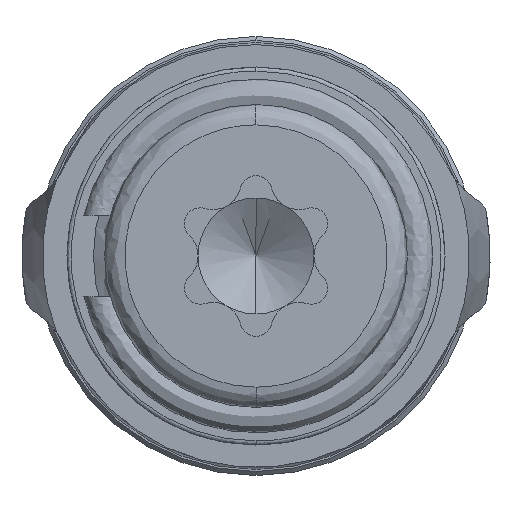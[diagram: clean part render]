
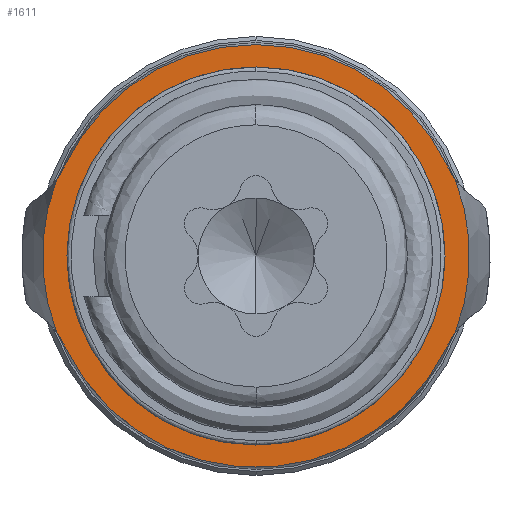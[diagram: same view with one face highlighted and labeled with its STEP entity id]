
A CAD part, front view. The second image highlights one B-rep face of the part: STEP entity #1611.
In plain terms, the highlighted planar face has unit normal (0, -1, 0).
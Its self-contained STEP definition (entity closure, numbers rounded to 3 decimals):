
#143 = ORIENTED_EDGE ( 'NONE', *, *, #3307, .F. ) ;
#214 = CARTESIAN_POINT ( 'NONE',  ( 4.705, 10.05, -2.215 ) ) ;
#247 = ORIENTED_EDGE ( 'NONE', *, *, #534, .F. ) ;
#262 = CARTESIAN_POINT ( 'NONE',  ( 0., 10.05, 0. ) ) ;
#264 = DIRECTION ( 'NONE',  ( 0., -1., 0. ) ) ;
#271 = DIRECTION ( 'NONE',  ( 0., 0., 1. ) ) ;
#302 = CARTESIAN_POINT ( 'NONE',  ( 0., 10.05, 0. ) ) ;
#308 = DIRECTION ( 'NONE',  ( 0., 1., 0. ) ) ;
#317 = DIRECTION ( 'NONE',  ( 0., 0., 1. ) ) ;
#350 = CARTESIAN_POINT ( 'NONE',  ( 0., 10.05, 0. ) ) ;
#356 = DIRECTION ( 'NONE',  ( 0., -1., 0. ) ) ;
#380 = DIRECTION ( 'NONE',  ( 0., 0., -1. ) ) ;
#430 = ORIENTED_EDGE ( 'NONE', *, *, #6045, .T. ) ;
#443 = CARTESIAN_POINT ( 'NONE',  ( -4.705, 10.05, -2.215 ) ) ;
#523 = CARTESIAN_POINT ( 'NONE',  ( 0., 10.05, 4.65 ) ) ;
#534 = EDGE_CURVE ( 'NONE', #2117, #4188, #3015, .T. ) ;
#614 = CIRCLE ( 'NONE', #5711, 5.2 ) ;
#696 = CARTESIAN_POINT ( 'NONE',  ( 0., 10.05, 0. ) ) ;
#906 = CARTESIAN_POINT ( 'NONE',  ( 6.514, 10.05, 3.067 ) ) ;
#919 = DIRECTION ( 'NONE',  ( 0., 1., 0. ) ) ;
#929 = AXIS2_PLACEMENT_3D ( 'NONE', #2936, #2767, #2726 ) ;
#936 = DIRECTION ( 'NONE',  ( 0., 0., 1. ) ) ;
#1196 = CIRCLE ( 'NONE', #3379, 4.65 ) ;
#1249 = AXIS2_PLACEMENT_3D ( 'NONE', #1777, #1759, #1723 ) ;
#1376 = VERTEX_POINT ( 'NONE', #3446 ) ;
#1548 = AXIS2_PLACEMENT_3D ( 'NONE', #696, #2259, #2910 ) ;
#1611 = ADVANCED_FACE ( 'NONE', ( #5346, #2971 ), #3779, .T. ) ;
#1657 = CIRCLE ( 'NONE', #2963, 5.252 ) ;
#1723 = DIRECTION ( 'NONE',  ( 0., 0., -1. ) ) ;
#1759 = DIRECTION ( 'NONE',  ( 0., -1., 0. ) ) ;
#1777 = CARTESIAN_POINT ( 'NONE',  ( 0., 10.05, 0. ) ) ;
#1790 = DIRECTION ( 'NONE',  ( 0., 0., 1. ) ) ;
#1802 = DIRECTION ( 'NONE',  ( 0., 1., 0. ) ) ;
#1811 = CARTESIAN_POINT ( 'NONE',  ( 0., 10.05, 0. ) ) ;
#1906 = CIRCLE ( 'NONE', #1249, 4.65 ) ;
#1950 = CARTESIAN_POINT ( 'NONE',  ( -4.705, 10.05, 2.215 ) ) ;
#2117 = VERTEX_POINT ( 'NONE', #5898 ) ;
#2212 = ORIENTED_EDGE ( 'NONE', *, *, #6093, .T. ) ;
#2259 = DIRECTION ( 'NONE',  ( 0., 1., 0. ) ) ;
#2275 = ORIENTED_EDGE ( 'NONE', *, *, #6057, .F. ) ;
#2314 = VERTEX_POINT ( 'NONE', #214 ) ;
#2450 = CARTESIAN_POINT ( 'NONE',  ( 0., 10.05, 5.2 ) ) ;
#2483 = CARTESIAN_POINT ( 'NONE',  ( 0., 10.05, 0. ) ) ;
#2487 = DIRECTION ( 'NONE',  ( 0., 1., 0. ) ) ;
#2494 = AXIS2_PLACEMENT_3D ( 'NONE', #5019, #5058, #5045 ) ;
#2500 = DIRECTION ( 'NONE',  ( 0., 0., 1. ) ) ;
#2503 = EDGE_CURVE ( 'NONE', #2314, #4335, #4168, .T. ) ;
#2531 = EDGE_LOOP ( 'NONE', ( #143, #2275 ) ) ;
#2654 = CIRCLE ( 'NONE', #3503, 5.2 ) ;
#2726 = DIRECTION ( 'NONE',  ( 0., 0., 1. ) ) ;
#2753 = ORIENTED_EDGE ( 'NONE', *, *, #2883, .F. ) ;
#2767 = DIRECTION ( 'NONE',  ( 0., 1., 0. ) ) ;
#2817 = CIRCLE ( 'NONE', #1548, 5.2 ) ;
#2844 = CIRCLE ( 'NONE', #5214, 2. ) ;
#2883 = EDGE_CURVE ( 'NONE', #3558, #4809, #2817, .T. ) ;
#2910 = DIRECTION ( 'NONE',  ( 0., 0., 1. ) ) ;
#2936 = CARTESIAN_POINT ( 'NONE',  ( -6.514, 10.05, -3.067 ) ) ;
#2963 = AXIS2_PLACEMENT_3D ( 'NONE', #262, #264, #271 ) ;
#2971 = FACE_BOUND ( 'NONE', #2531, .T. ) ;
#3015 = CIRCLE ( 'NONE', #4382, 5.252 ) ;
#3040 = EDGE_CURVE ( 'NONE', #2117, #5439, #5396, .T. ) ;
#3052 = EDGE_LOOP ( 'NONE', ( #5541, #5096, #247, #5070, #4393, #4144, #430, #2212, #2753 ) ) ;
#3069 = VERTEX_POINT ( 'NONE', #1950 ) ;
#3226 = DIRECTION ( 'NONE',  ( 0., 0., 1. ) ) ;
#3253 = DIRECTION ( 'NONE',  ( 0., 1., 0. ) ) ;
#3257 = DIRECTION ( 'NONE',  ( 0., -1., 0. ) ) ;
#3271 = CARTESIAN_POINT ( 'NONE',  ( -6.514, 10.05, 3.067 ) ) ;
#3284 = EDGE_CURVE ( 'NONE', #3069, #4188, #3745, .T. ) ;
#3307 = EDGE_CURVE ( 'NONE', #3776, #3467, #1906, .T. ) ;
#3333 = AXIS2_PLACEMENT_3D ( 'NONE', #3271, #3253, #3226 ) ;
#3379 = AXIS2_PLACEMENT_3D ( 'NONE', #350, #356, #380 ) ;
#3411 = CARTESIAN_POINT ( 'NONE',  ( 4.903, 10.05, -1.882 ) ) ;
#3446 = CARTESIAN_POINT ( 'NONE',  ( 4.903, 10.05, 1.882 ) ) ;
#3467 = VERTEX_POINT ( 'NONE', #523 ) ;
#3503 = AXIS2_PLACEMENT_3D ( 'NONE', #302, #308, #317 ) ;
#3558 = VERTEX_POINT ( 'NONE', #2450 ) ;
#3636 = CARTESIAN_POINT ( 'NONE',  ( -4.903, 10.05, 1.882 ) ) ;
#3745 = CIRCLE ( 'NONE', #3333, 2. ) ;
#3776 = VERTEX_POINT ( 'NONE', #5292 ) ;
#3779 = PLANE ( 'NONE',  #4418 ) ;
#4083 = CARTESIAN_POINT ( 'NONE',  ( 4.705, 10.05, 2.215 ) ) ;
#4144 = ORIENTED_EDGE ( 'NONE', *, *, #2503, .T. ) ;
#4168 = CIRCLE ( 'NONE', #2494, 2. ) ;
#4188 = VERTEX_POINT ( 'NONE', #3636 ) ;
#4335 = VERTEX_POINT ( 'NONE', #3411 ) ;
#4382 = AXIS2_PLACEMENT_3D ( 'NONE', #1811, #1802, #1790 ) ;
#4393 = ORIENTED_EDGE ( 'NONE', *, *, #6047, .F. ) ;
#4418 = AXIS2_PLACEMENT_3D ( 'NONE', #5375, #3257, #5856 ) ;
#4593 = EDGE_CURVE ( 'NONE', #3069, #3558, #614, .T. ) ;
#4809 = VERTEX_POINT ( 'NONE', #4083 ) ;
#5019 = CARTESIAN_POINT ( 'NONE',  ( 6.514, 10.05, -3.067 ) ) ;
#5045 = DIRECTION ( 'NONE',  ( 0., 0., 1. ) ) ;
#5058 = DIRECTION ( 'NONE',  ( 0., 1., 0. ) ) ;
#5070 = ORIENTED_EDGE ( 'NONE', *, *, #3040, .T. ) ;
#5096 = ORIENTED_EDGE ( 'NONE', *, *, #3284, .T. ) ;
#5214 = AXIS2_PLACEMENT_3D ( 'NONE', #906, #919, #936 ) ;
#5292 = CARTESIAN_POINT ( 'NONE',  ( 0., 10.05, -4.65 ) ) ;
#5346 = FACE_OUTER_BOUND ( 'NONE', #3052, .T. ) ;
#5375 = CARTESIAN_POINT ( 'NONE',  ( 0., 10.05, 0. ) ) ;
#5396 = CIRCLE ( 'NONE', #929, 2. ) ;
#5439 = VERTEX_POINT ( 'NONE', #443 ) ;
#5541 = ORIENTED_EDGE ( 'NONE', *, *, #4593, .F. ) ;
#5711 = AXIS2_PLACEMENT_3D ( 'NONE', #2483, #2487, #2500 ) ;
#5856 = DIRECTION ( 'NONE',  ( 0., 0., -1. ) ) ;
#5898 = CARTESIAN_POINT ( 'NONE',  ( -4.903, 10.05, -1.882 ) ) ;
#6045 = EDGE_CURVE ( 'NONE', #4335, #1376, #1657, .T. ) ;
#6047 = EDGE_CURVE ( 'NONE', #2314, #5439, #2654, .T. ) ;
#6057 = EDGE_CURVE ( 'NONE', #3467, #3776, #1196, .T. ) ;
#6093 = EDGE_CURVE ( 'NONE', #1376, #4809, #2844, .T. ) ;
